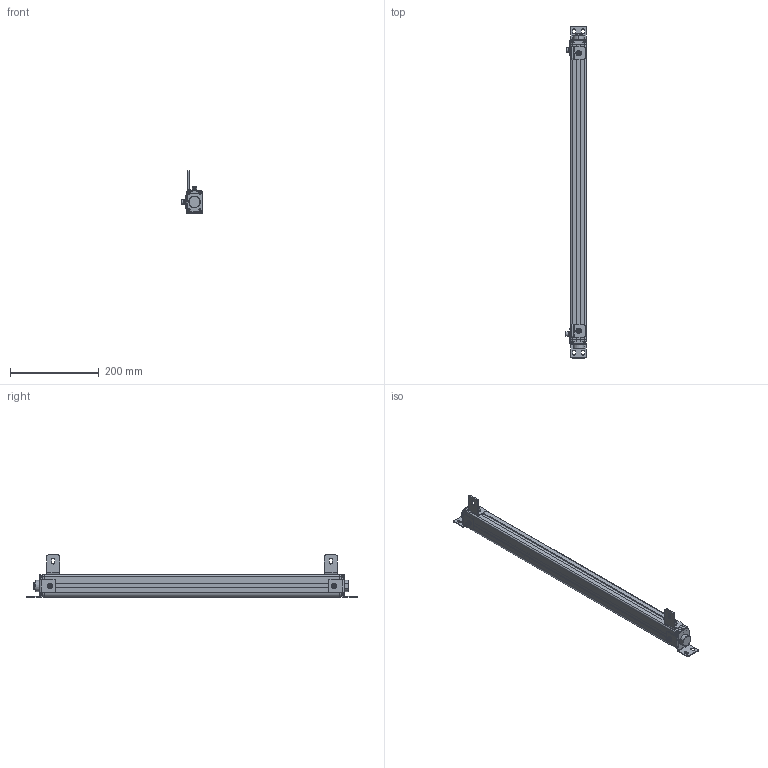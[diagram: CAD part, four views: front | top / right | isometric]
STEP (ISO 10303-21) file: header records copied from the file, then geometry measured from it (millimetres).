
FILE_DESCRIPTION((''),'2;1');
FILE_NAME('ESN--000_ASM','2021-08-10T21:23:15',('18720616900'),(''),'CREO PARAMETRIC BY PTC INC, 2019010','CREO PARAMETRIC BY PTC INC, 2019010','');
FILE_SCHEMA(('CONFIG_CONTROL_DESIGN'));
Length unit declared in the file: millimetre
Products named in the file (22): 00; 000; _0001; 4000; 4--0001; ESN_40001_ASM; L10001; M6-8--0001; M6-1--00; M6-1-00; M6-80001_ASM; L1--0001_ASM; _0002; 0005; ST-3-120001; H1--000; H1--0001_ASM; H1--0003_ASM; ESN--000_ASM
Assembly tree (34 placements, depth 4):
  ESN--000_ASM
    00
    000
    _0001
    000
    ESN_40001_ASM
      4000
      4--0001  x4
    L1--0001_ASM  x2
      L10001
      M6-80001_ASM
        M6-8--0001
        M6-1--00
        M6-1-00
        00
    _0002
    0005
    ST-3-120001  x8
    H1--0001_ASM
      H1--000
      M6-80001_ASM
        M6-8--0001
        M6-1--00
        M6-1-00
        00
    H1--0003_ASM
      H1--000
      M6-80001_ASM
        M6-8--0001
        M6-1--00
        M6-1-00
        00
Bounding box: 46.5 x 747 x 94.95 mm (x, y, z)
Volume: 1051680.5 mm3; surface area: 233747 mm2
Topology: 39 solids, 39 shells, 1727 faces, 4555 edges, 2925 vertices
Faces by surface type: plane 541, cylinder 404, bspline 362, cone 291, torus 105, sphere 24
Entity records: 45714 total; most frequent: CARTESIAN_POINT 24222, ORIENTED_EDGE 4766, DIRECTION 3842, EDGE_CURVE 2383, VERTEX_POINT 1546, AXIS2_PLACEMENT_3D 1400, VECTOR 1042, LINE 1042
